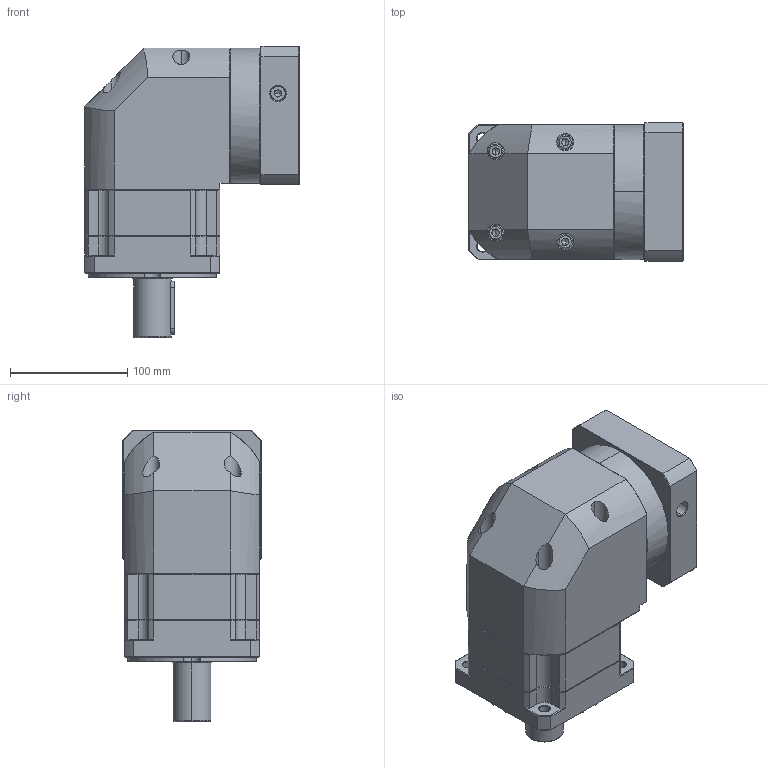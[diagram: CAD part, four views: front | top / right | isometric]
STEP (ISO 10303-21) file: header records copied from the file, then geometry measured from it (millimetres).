
FILE_DESCRIPTION (( 'STEP AP214' ), '1' );
FILE_NAME ('ZBR115A-D32-L1-P2-24-95-115-M6.step', '2023-08-26T12:37:14', ( '' ), ( '' ), 'SwSTEP 2.0', 'SolidWorks 2016', '' );
FILE_SCHEMA (( 'AUTOMOTIVE_DESIGN' ));
Length unit declared in the file: millimetre
Products named in the file (1): ZBR115A-D32-L1-P2-24-95-115-M6
Bounding box: 182.4 x 118 x 248 mm (x, y, z)
Volume: 2875219.4 mm3; surface area: 239061.8 mm2
Topology: 6 solids, 6 shells, 2367 faces, 6188 edges, 3924 vertices
Faces by surface type: plane 1138, bspline 428, cylinder 424, cone 369, torus 8
Entity records: 128557 total; most frequent: CARTESIAN_POINT 47935, ORIENTED_EDGE 12316, DIRECTION 9716, EDGE_CURVE 6158, VECTOR 3970, LINE 3970, VERTEX_POINT 3924, AXIS2_PLACEMENT_3D 2873
